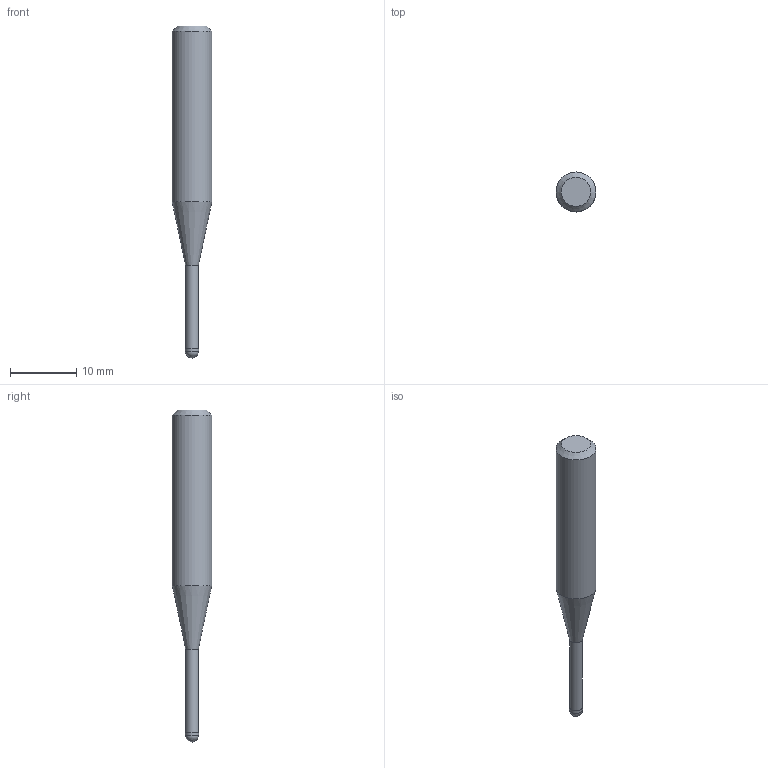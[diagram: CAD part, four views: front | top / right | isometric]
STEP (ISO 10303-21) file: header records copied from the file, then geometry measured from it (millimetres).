
FILE_DESCRIPTION((''),'2;1');
FILE_NAME('C:\Users\nsx150\AppData\Local\Temp\Mastercam 2021\ARV7HD45SN\TEMP.step','2023-06-13T16:37:37',(''),(''),'STEP Write','Mastercam 2021 ... CNC Software, Inc.','');
FILE_SCHEMA(('AUTOMOTIVE_DESIGN'));
Length unit declared in the file: millimetre
Products named in the file (1): None
Bounding box: 6 x 6 x 50 mm (x, y, z)
Volume: 911.5 mm3; surface area: 730.7 mm2
Topology: 2 solids, 2 shells, 9 faces, 14 edges, 8 vertices
Faces by surface type: plane 3, cylinder 3, cone 2, sphere 1
Full cylindrical faces by diameter (mm): 1.94 x1, 2 x1, 6 x1
Entity records: 211 total; most frequent: DIRECTION 36, CARTESIAN_POINT 25, AXIS2_PLACEMENT_3D 18, ORIENTED_EDGE 14, EDGE_LOOP 14, STYLED_ITEM 12, ADVANCED_FACE 9, FACE_BOUND 8
